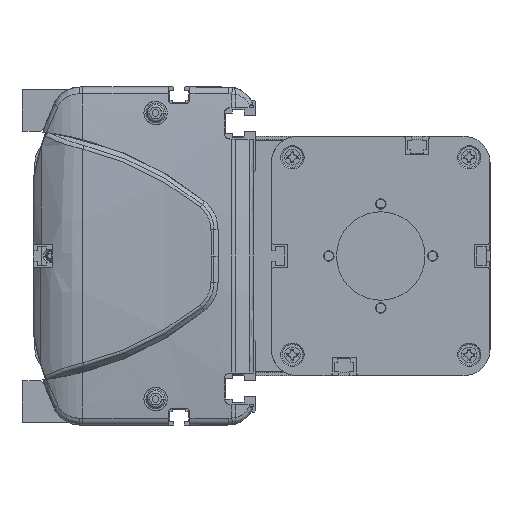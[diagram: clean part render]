
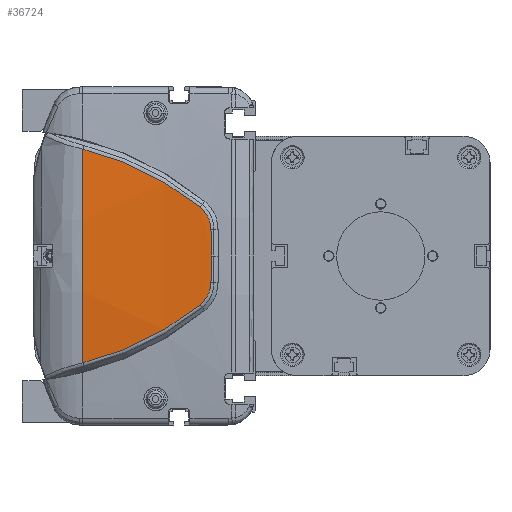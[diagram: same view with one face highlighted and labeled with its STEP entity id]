
A CAD part, left-side view. The second image highlights one B-rep face of the part: STEP entity #36724.
In plain terms, the highlighted cylindrical face has radius 500 mm (diameter 1000 mm), a partial arc.
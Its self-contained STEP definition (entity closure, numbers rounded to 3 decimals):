
#11246=CARTESIAN_POINT('',(-313.648,21.913,
-18.759));
#11247=CARTESIAN_POINT('',(-313.449,28.504,
-24.058));
#11248=CARTESIAN_POINT('',(-312.934,42.795,
-33.27));
#11249=CARTESIAN_POINT('',(-312.471,58.756,
-39.127));
#11250=CARTESIAN_POINT('',(-312.306,66.962,
-41.121));
#11252=CARTESIAN_POINT('',(-312.306,66.962,
41.121));
#11253=CARTESIAN_POINT('',(-312.471,58.756,
39.127));
#11254=CARTESIAN_POINT('',(-312.934,42.795,
33.27));
#11255=CARTESIAN_POINT('',(-313.449,28.504,
24.058));
#11256=CARTESIAN_POINT('',(-313.648,21.913,
18.759));
#11258=CARTESIAN_POINT('',(-313.648,21.913,
18.759));
#11259=CARTESIAN_POINT('',(-313.686,20.635,
17.736));
#11260=CARTESIAN_POINT('',(-313.779,18.536,
15.107));
#11261=CARTESIAN_POINT('',(-313.863,17.752,
11.827));
#11262=CARTESIAN_POINT('',(-313.896,17.724,
10.178));
#11264=CARTESIAN_POINT('',(-313.896,17.724,
10.178));
#11265=CARTESIAN_POINT('',(-313.92,17.707,
9.018));
#11266=CARTESIAN_POINT('',(-313.959,17.667,
6.716));
#11267=CARTESIAN_POINT('',(-313.993,17.579,
3.323));
#11268=CARTESIAN_POINT('',(-314.,17.498,
1.101));
#11269=CARTESIAN_POINT('',(-314.,17.449,
0.));
#11271=CARTESIAN_POINT('',(-314.,17.449,
0.));
#11272=CARTESIAN_POINT('',(-314.,17.498,
-1.101));
#11273=CARTESIAN_POINT('',(-313.993,17.579,
-3.323));
#11274=CARTESIAN_POINT('',(-313.959,17.667,
-6.715));
#11275=CARTESIAN_POINT('',(-313.92,17.707,
-9.02));
#11276=CARTESIAN_POINT('',(-313.896,17.724,
-10.18));
#11278=CARTESIAN_POINT('',(-313.896,17.724,
-10.18));
#11279=CARTESIAN_POINT('',(-313.863,17.752,
-11.828));
#11280=CARTESIAN_POINT('',(-313.779,18.537,
-15.109));
#11281=CARTESIAN_POINT('',(-313.686,20.635,
-17.736));
#11282=CARTESIAN_POINT('',(-313.648,21.913,
-18.759));
#11335=CARTESIAN_POINT('',(186.,66.962,0.));
#11336=DIRECTION('',(0.,-1.,0.));
#11337=DIRECTION('',(-0.997,0.,0.082));
#11338=AXIS2_PLACEMENT_3D('',#11335,#11336,#11337);
#17728=VERTEX_POINT('',#11246);
#17729=VERTEX_POINT('',#11250);
#17730=CARTESIAN_POINT('',(-312.306,66.962,
41.121));
#17731=VERTEX_POINT('',#17730);
#17732=VERTEX_POINT('',#11256);
#17733=VERTEX_POINT('',#11262);
#17734=VERTEX_POINT('',#11269);
#17735=VERTEX_POINT('',#11276);
#36704=CARTESIAN_POINT('',(186.,8.606,0.));
#36705=DIRECTION('',(0.,1.,0.));
#36706=DIRECTION('',(1.,0.,0.));
#36707=AXIS2_PLACEMENT_3D('',#36704,#36705,#36706);
#36708=CYLINDRICAL_SURFACE('',#36707,500.);
#36710=ORIENTED_EDGE('',*,*,#36709,.T.);
#36712=ORIENTED_EDGE('',*,*,#36711,.F.);
#36714=ORIENTED_EDGE('',*,*,#36713,.T.);
#36716=ORIENTED_EDGE('',*,*,#36715,.T.);
#36718=ORIENTED_EDGE('',*,*,#36717,.T.);
#36720=ORIENTED_EDGE('',*,*,#36719,.T.);
#36721=ORIENTED_EDGE('',*,*,#36694,.T.);
#36722=EDGE_LOOP('',(#36710,#36712,#36714,#36716,#36718,#36720,#36721));
#36723=FACE_OUTER_BOUND('',#36722,.F.);
#36724=ADVANCED_FACE('',(#36723),#36708,.T.);
#11251=B_SPLINE_CURVE_WITH_KNOTS('',3,(#11246,#11247,#11248,#11249,#11250),
.UNSPECIFIED.,.F.,.F.,(4,1,4),(0.,0.5,1.),.UNSPECIFIED.);
#11257=B_SPLINE_CURVE_WITH_KNOTS('',3,(#11252,#11253,#11254,#11255,#11256),
.UNSPECIFIED.,.F.,.F.,(4,1,4),(0.,0.5,1.),.UNSPECIFIED.);
#11263=B_SPLINE_CURVE_WITH_KNOTS('',3,(#11258,#11259,#11260,#11261,#11262),
.UNSPECIFIED.,.F.,.F.,(4,1,4),(0.,0.5,1.),.UNSPECIFIED.);
#11270=B_SPLINE_CURVE_WITH_KNOTS('',3,(#11264,#11265,#11266,#11267,#11268,
#11269),.UNSPECIFIED.,.F.,.F.,(4,1,1,4),(0.,0.333,
0.667,1.),.UNSPECIFIED.);
#11277=B_SPLINE_CURVE_WITH_KNOTS('',3,(#11271,#11272,#11273,#11274,#11275,
#11276),.UNSPECIFIED.,.F.,.F.,(4,1,1,4),(0.,0.333,
0.667,1.),.UNSPECIFIED.);
#11283=B_SPLINE_CURVE_WITH_KNOTS('',3,(#11278,#11279,#11280,#11281,#11282),
.UNSPECIFIED.,.F.,.F.,(4,1,4),(0.,0.5,1.),.UNSPECIFIED.);
#11339=CIRCLE('',#11338,500.);
#36694=EDGE_CURVE('',#17735,#17728,#11283,.T.);
#36709=EDGE_CURVE('',#17728,#17729,#11251,.T.);
#36711=EDGE_CURVE('',#17731,#17729,#11339,.T.);
#36713=EDGE_CURVE('',#17731,#17732,#11257,.T.);
#36715=EDGE_CURVE('',#17732,#17733,#11263,.T.);
#36717=EDGE_CURVE('',#17733,#17734,#11270,.T.);
#36719=EDGE_CURVE('',#17734,#17735,#11277,.T.);
